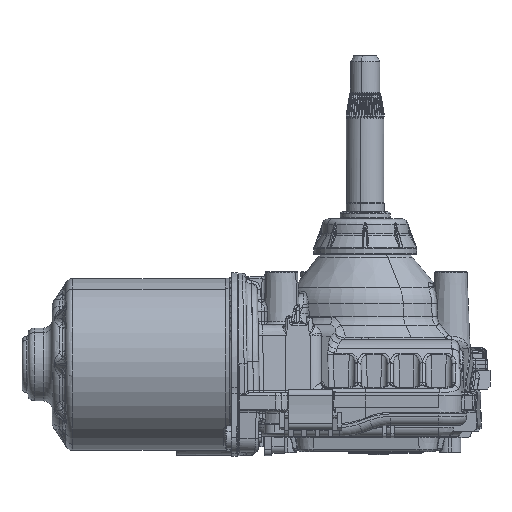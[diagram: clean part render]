
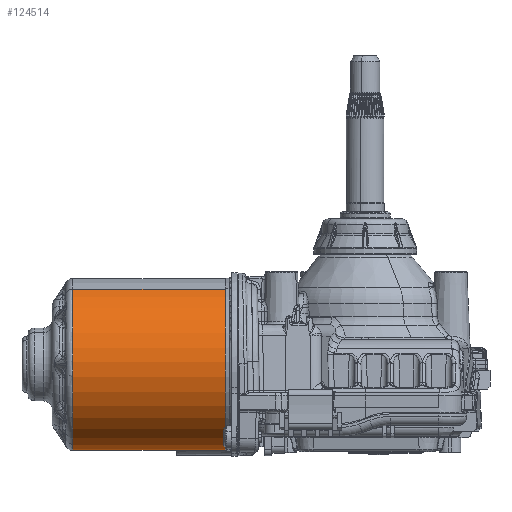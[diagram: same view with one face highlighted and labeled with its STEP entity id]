
A CAD part, front view. The second image highlights one B-rep face of the part: STEP entity #124514.
In plain terms, the highlighted cylindrical face has radius 29.25 mm (diameter 58.5 mm), a partial arc.
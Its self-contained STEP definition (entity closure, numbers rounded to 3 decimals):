
#5114 = EDGE_CURVE ( 'NONE', #55676, #26407, #7366, .T. ) ;
#5811 = DIRECTION ( 'NONE',  ( 1., 0., 0. ) ) ;
#7366 = CIRCLE ( 'NONE', #102503, 29.25 ) ;
#26407 = VERTEX_POINT ( 'NONE', #139267 ) ;
#26862 = CARTESIAN_POINT ( 'NONE',  ( -116., 0., 0. ) ) ;
#27622 = CARTESIAN_POINT ( 'NONE',  ( -99.5, 0., 0. ) ) ;
#35253 = ORIENTED_EDGE ( 'NONE', *, *, #116729, .T. ) ;
#35358 = CARTESIAN_POINT ( 'NONE',  ( -47.5, -14.023, 25.669 ) ) ;
#39759 = DIRECTION ( 'NONE',  ( 0., 1., 0. ) ) ;
#42650 = FACE_OUTER_BOUND ( 'NONE', #48315, .T. ) ;
#48315 = EDGE_LOOP ( 'NONE', ( #172510, #179438, #35253, #51042 ) ) ;
#50279 = VERTEX_POINT ( 'NONE', #130255 ) ;
#51042 = ORIENTED_EDGE ( 'NONE', *, *, #5114, .F. ) ;
#52860 = EDGE_CURVE ( 'NONE', #86886, #50279, #116438, .T. ) ;
#54776 = CYLINDRICAL_SURFACE ( 'NONE', #171042, 29.25 ) ;
#55676 = VERTEX_POINT ( 'NONE', #35358 ) ;
#61418 = DIRECTION ( 'NONE',  ( 1., 0., 0. ) ) ;
#70917 = VECTOR ( 'NONE', #61418, 1000. ) ;
#83644 = DIRECTION ( 'NONE',  ( 1., 0., 0. ) ) ;
#86886 = VERTEX_POINT ( 'NONE', #87216 ) ;
#87216 = CARTESIAN_POINT ( 'NONE',  ( -99.5, -14.023, 25.669 ) ) ;
#91775 = DIRECTION ( 'NONE',  ( 1., 0., 0. ) ) ;
#93276 = CARTESIAN_POINT ( 'NONE',  ( -47.5, 0., 0. ) ) ;
#95704 = AXIS2_PLACEMENT_3D ( 'NONE', #27622, #167205, #39759 ) ;
#98507 = DIRECTION ( 'NONE',  ( 0., -0.479, 0.878 ) ) ;
#102503 = AXIS2_PLACEMENT_3D ( 'NONE', #93276, #5811, #176989 ) ;
#116438 = CIRCLE ( 'NONE', #95704, 29.25 ) ;
#116729 = EDGE_CURVE ( 'NONE', #50279, #26407, #119693, .T. ) ;
#119693 = LINE ( 'NONE', #176392, #171616 ) ;
#124514 = ADVANCED_FACE ( 'NONE', ( #42650 ), #54776, .T. ) ;
#130255 = CARTESIAN_POINT ( 'NONE',  ( -99.5, 14.023, -25.669 ) ) ;
#130321 = CARTESIAN_POINT ( 'NONE',  ( -116., -14.023, 25.669 ) ) ;
#132033 = EDGE_CURVE ( 'NONE', #86886, #55676, #159129, .T. ) ;
#139267 = CARTESIAN_POINT ( 'NONE',  ( -47.5, 14.023, -25.669 ) ) ;
#159129 = LINE ( 'NONE', #130321, #70917 ) ;
#167205 = DIRECTION ( 'NONE',  ( 1., 0., 0. ) ) ;
#171042 = AXIS2_PLACEMENT_3D ( 'NONE', #26862, #83644, #98507 ) ;
#171616 = VECTOR ( 'NONE', #91775, 1000. ) ;
#172510 = ORIENTED_EDGE ( 'NONE', *, *, #132033, .F. ) ;
#176392 = CARTESIAN_POINT ( 'NONE',  ( -116., 14.023, -25.669 ) ) ;
#176989 = DIRECTION ( 'NONE',  ( 0., 1., 0. ) ) ;
#179438 = ORIENTED_EDGE ( 'NONE', *, *, #52860, .T. ) ;
